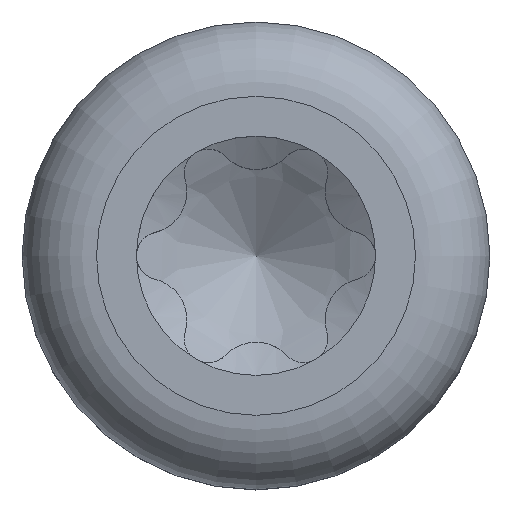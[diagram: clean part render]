
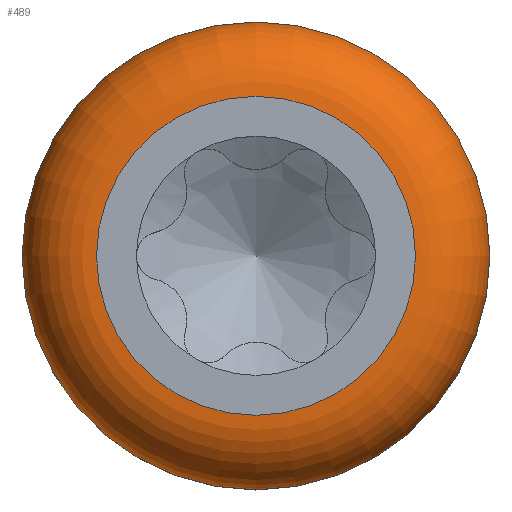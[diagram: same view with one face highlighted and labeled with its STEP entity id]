
A CAD part, top view. The second image highlights one B-rep face of the part: STEP entity #489.
In plain terms, the highlighted toroidal (fillet/blend) face has major radius 3 mm and minor radius 1.4 mm.
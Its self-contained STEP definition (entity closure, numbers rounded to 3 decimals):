
#449=TOROIDAL_SURFACE('',#2517,3.,1.4);
#460=FACE_BOUND('',#827,.T.);
#461=FACE_BOUND('',#828,.T.);
#489=ADVANCED_FACE('',(#460,#461),#449,.T.);
#827=EDGE_LOOP('',(#1089));
#828=EDGE_LOOP('',(#1090));
#997=CIRCLE('',#2514,4.4);
#998=CIRCLE('',#2516,3.);
#1089=ORIENTED_EDGE('',*,*,#2012,.F.);
#1090=ORIENTED_EDGE('',*,*,#2011,.T.);
#1799=VERTEX_POINT('',#5918);
#1800=VERTEX_POINT('',#5921);
#2011=EDGE_CURVE('',#1799,#1799,#997,.T.);
#2012=EDGE_CURVE('',#1800,#1800,#998,.T.);
#2514=AXIS2_PLACEMENT_3D('',#5917,#2582,#2583);
#2516=AXIS2_PLACEMENT_3D('',#5920,#2586,#2587);
#2517=AXIS2_PLACEMENT_3D('',#5922,#2588,#2589);
#2582=DIRECTION('',(0.,0.,1.));
#2583=DIRECTION('',(1.,0.,0.));
#2586=DIRECTION('',(0.,0.,1.));
#2587=DIRECTION('',(1.,0.,0.));
#2588=DIRECTION('',(0.,0.,1.));
#2589=DIRECTION('',(1.,0.,0.));
#5917=CARTESIAN_POINT('',(0.,0.,2.1));
#5918=CARTESIAN_POINT('',(4.4,0.,2.1));
#5920=CARTESIAN_POINT('',(0.,0.,3.5));
#5921=CARTESIAN_POINT('',(3.,0.,3.5));
#5922=CARTESIAN_POINT('',(0.,0.,2.1));
